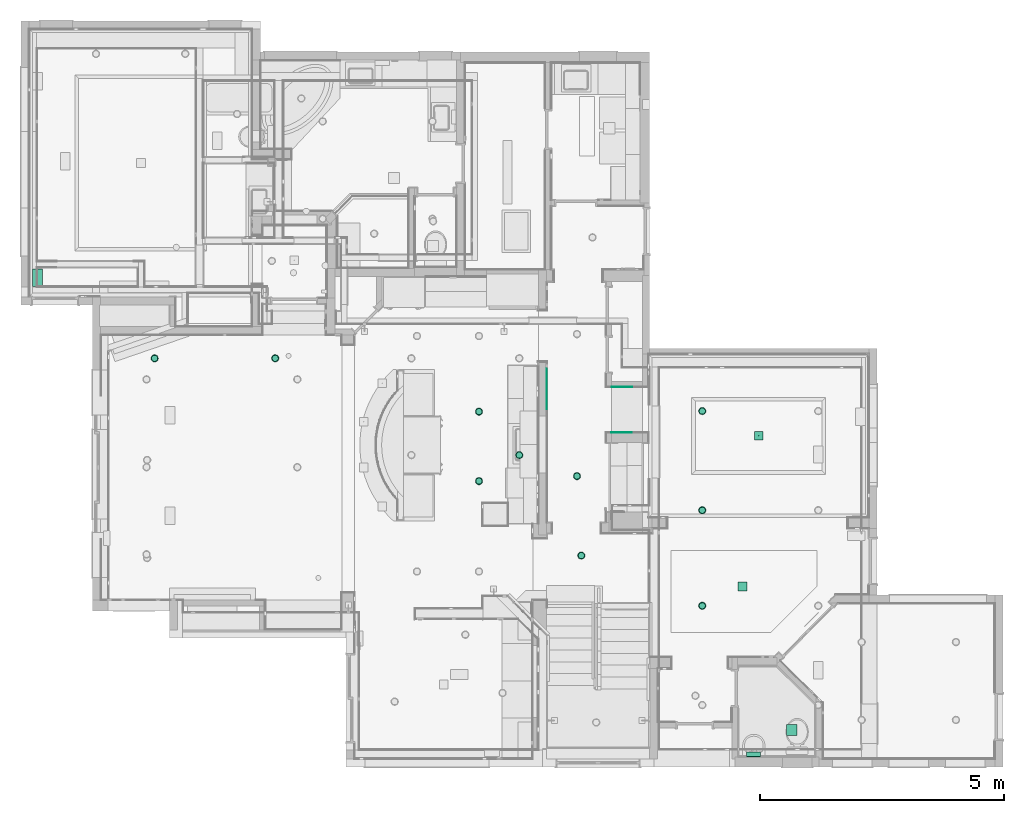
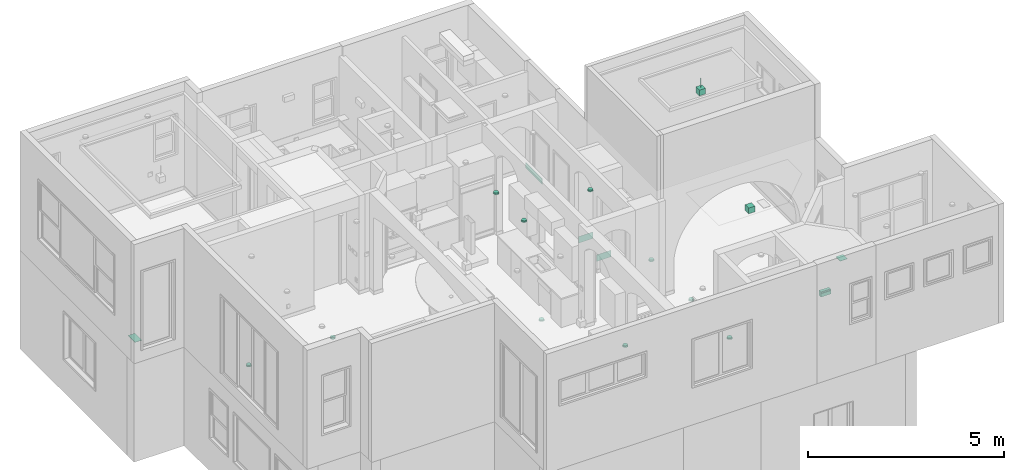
# One storey, part 38 of 60: 18 flow terminals.
"""IFC2X3 building model written with IfcOpenShell, lengths in feet."""

from ifc_helpers import new_model, entity, si_unit, converted_unit, direction, frame, frame_2d, origin, origin_2d_with_axis, place, context, subcontext, project, spatial, rectangle, extrude, faceted_brep, source, transform, mapped, material, material_list, type_object, type_shapes, element, save


model = new_model("IFC2X3")

# Units and contexts
model_context = context("Model", 3, precision=0.0001, world=origin(), true_north=direction((6.123031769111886e-17, 1.0)))
plan_context = context("Plan", 3, precision=0.0001, world=origin(), true_north=direction((6.123031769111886e-17, 1.0)))
body_context = subcontext(model_context, "Body", "Model", "MODEL_VIEW")
ifc_project = project(units=[converted_unit("LENGTHUNIT", "FOOT", entity("IfcLengthMeasure", 0.3048), si_unit("LENGTHUNIT", "METRE"), dimensions=[1, 0, 0, 0, 0, 0, 0]), converted_unit("AREAUNIT", "SQUARE FOOT", entity("IfcAreaMeasure", 0.09290304), si_unit("AREAUNIT", "SQUARE_METRE"), dimensions=[2, 0, 0, 0, 0, 0, 0]), converted_unit("PLANEANGLEUNIT", "DEGREE", entity("IfcPlaneAngleMeasure", 0.017453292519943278), si_unit("PLANEANGLEUNIT", "RADIAN"), dimensions=[0, 0, 0, 0, 0, 0, 0])], contexts=[model_context, plan_context])

# Site, building, storey
site_placement = place(None, origin())
site = spatial("IfcSite", under=ifc_project, at=site_placement, Name="Default", CompositionType="ELEMENT")
building_placement = place(site_placement, origin())
building = spatial("IfcBuilding", under=site, at=building_placement, CompositionType="ELEMENT")
storey_placement = place(building_placement, origin())
storey = spatial("IfcBuildingStorey", under=building, at=storey_placement, Name="First floor", CompositionType="ELEMENT", Elevation=0.0)

# Flow terminals
ifc_material_1 = material(Name="Default New Material")
ifc_material_2 = material(Name="Glass, White, High Luminance")
ifc_material_list = material_list([ifc_material_1, ifc_material_2])
light_fixture_type_1 = type_object("IfcLightFixtureType", Name="C_Spotlight Recessed:Light 2", PredefinedType="NOTDEFINED", material=ifc_material_list)
shared_shape_1 = source(origin(), body_context, "Body", "Brep", [
    faceted_brep([(-0.12499999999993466, 0.21650635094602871, 0.020833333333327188), (-0.17677669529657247, 0.17677669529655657, 0.020833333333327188), (-0.08333333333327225, 0.14433756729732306, 0.020833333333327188), (-0.04313650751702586, 0.1609876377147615, 0.020833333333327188), (-0.0647047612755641, 0.24148145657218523, 0.020833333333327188), (-0.11785113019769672, 0.11785113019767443, 0.020833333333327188), (-0.21650635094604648, 0.12499999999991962, 0.020833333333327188), (-0.1443375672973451, 0.08333333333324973, 0.020833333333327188), (-0.16098763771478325, 0.04313650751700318, 0.020833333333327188), (-0.2414814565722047, 0.06470476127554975, 0.020833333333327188), (-0.166666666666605, 0.0, 0.020833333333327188), (-0.24999999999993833, 0.0, 0.020833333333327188), (-0.16098763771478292, -0.043136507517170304, 0.020833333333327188), (-0.24148145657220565, -0.06470476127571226, 0.020833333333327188), (-0.14433756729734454, -0.08333333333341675, 0.020833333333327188), (-0.2165063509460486, -0.12500000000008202, 0.020833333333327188), (-0.117851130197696, -0.11785113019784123, 0.020833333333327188), (-0.1767766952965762, -0.17677669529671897, 0.020833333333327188), (-0.08333333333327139, -0.14433756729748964, 0.020833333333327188), (-0.12499999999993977, -0.21650635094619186, 0.020833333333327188), (-0.04313650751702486, -0.16098763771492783, 0.020833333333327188), (-0.06470476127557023, -0.24148145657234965, 0.020833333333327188), (0.0, -0.1666666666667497, 0.020833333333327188), (0.0, -0.25000000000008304, 0.020833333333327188), (0.04313650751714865, -0.1609876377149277, 0.020833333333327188), (0.06470476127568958, -0.24148145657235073, 0.020833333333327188), (0.08333333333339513, -0.1443375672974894, 0.020833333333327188), (0.12500000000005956, -0.21650635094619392, 0.020833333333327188), (0.11785113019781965, -0.11785113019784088, 0.020833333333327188), (0.1767766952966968, -0.1767766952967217, 0.020833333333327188), (0.14433756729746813, -0.0833333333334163, 0.020833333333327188), (0.21650635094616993, -0.12500000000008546, 0.020833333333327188), (0.24148145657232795, -0.06470476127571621, 0.020833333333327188), (0.16098763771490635, -0.0431365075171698, 0.020833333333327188), (0.2500000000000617, 0.0, 0.020833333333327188), (0.1666666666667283, 0.0, 0.020833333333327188), (0.24148145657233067, 0.06470476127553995, 0.020833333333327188), (0.16098763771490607, 0.04313650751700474, 0.020833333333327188), (0.21650635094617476, 0.12499999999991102, 0.020833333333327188), (0.14433756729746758, 0.08333333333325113, 0.020833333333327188), (0.17677669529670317, 0.17677669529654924, 0.020833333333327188), (0.1178511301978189, 0.11785113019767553, 0.020833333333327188), (0.1250000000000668, 0.21650635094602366, 0.020833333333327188), (0.08333333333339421, 0.14433756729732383, 0.020833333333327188), (0.06470476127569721, 0.2414814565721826, 0.020833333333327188), (0.04313650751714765, 0.16098763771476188, 0.020833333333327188), (0.0, 0.24999999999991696, 0.020833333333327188), (0.0, 0.1666666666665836, 0.020833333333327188), (-0.12499999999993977, -0.21650635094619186, 0.0), (-0.1767766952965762, -0.17677669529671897, 0.0), (-0.08333333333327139, -0.14433756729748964, 0.0), (-0.04313650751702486, -0.16098763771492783, 0.0), (-0.06470476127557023, -0.24148145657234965, 0.0), (-0.117851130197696, -0.11785113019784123, 0.0), (-0.2165063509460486, -0.12500000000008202, 0.0), (-0.14433756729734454, -0.08333333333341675, 0.0), (-0.16098763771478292, -0.043136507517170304, 0.0), (-0.24148145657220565, -0.06470476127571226, 0.0), (-0.166666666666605, 0.0, 0.0), (-0.24999999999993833, 0.0, 0.0), (-0.16098763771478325, 0.04313650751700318, 0.0), (-0.2414814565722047, 0.06470476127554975, 0.0), (-0.1443375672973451, 0.08333333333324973, 0.0), (-0.21650635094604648, 0.12499999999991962, 0.0), (-0.11785113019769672, 0.11785113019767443, 0.0), (-0.17677669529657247, 0.17677669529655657, 0.0), (-0.08333333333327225, 0.14433756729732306, 0.0), (-0.12499999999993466, 0.21650635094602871, 0.0), (-0.04313650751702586, 0.1609876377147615, 0.0), (-0.0647047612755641, 0.24148145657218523, 0.0), (0.0, 0.1666666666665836, 0.0), (0.0, 0.24999999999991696, 0.0), (0.04313650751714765, 0.16098763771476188, 0.0), (0.06470476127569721, 0.2414814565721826, 0.0), (0.08333333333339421, 0.14433756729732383, 0.0), (0.1250000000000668, 0.21650635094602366, 0.0), (0.1178511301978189, 0.11785113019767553, 0.0), (0.17677669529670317, 0.17677669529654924, 0.0), (0.14433756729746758, 0.08333333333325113, 0.0), (0.21650635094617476, 0.12499999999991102, 0.0), (0.24148145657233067, 0.06470476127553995, 0.0), (0.16098763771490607, 0.04313650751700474, 0.0), (0.2500000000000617, 0.0, 0.0), (0.1666666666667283, 0.0, 0.0), (0.24148145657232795, -0.06470476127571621, 0.0), (0.16098763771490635, -0.0431365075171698, 0.0), (0.21650635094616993, -0.12500000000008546, 0.0), (0.14433756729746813, -0.0833333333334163, 0.0), (0.1767766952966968, -0.1767766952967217, 0.0), (0.11785113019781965, -0.11785113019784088, 0.0), (0.12500000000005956, -0.21650635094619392, 0.0), (0.08333333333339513, -0.1443375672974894, 0.0), (0.06470476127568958, -0.24148145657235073, 0.0), (0.04313650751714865, -0.1609876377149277, 0.0), (0.0, -0.25000000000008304, 0.0), (0.0, -0.1666666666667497, 0.0)], [[[0, 1, 2]], [[0, 2, 3]], [[3, 4, 0]], [[2, 1, 5]], [[6, 5, 1]], [[7, 5, 6]], [[8, 7, 6]], [[8, 6, 9]], [[8, 9, 10]], [[10, 9, 11]], [[12, 10, 11]], [[12, 11, 13]], [[14, 12, 13]], [[14, 13, 15]], [[16, 14, 15]], [[15, 17, 16]], [[17, 18, 16]], [[18, 17, 19]], [[18, 19, 20]], [[21, 20, 19]], [[20, 21, 22]], [[22, 21, 23]], [[23, 24, 22]], [[24, 23, 25]], [[24, 25, 26]], [[27, 26, 25]], [[27, 28, 26]], [[27, 29, 28]], [[30, 28, 29]], [[31, 30, 29]], [[32, 30, 31]], [[33, 30, 32]], [[33, 32, 34]], [[34, 35, 33]], [[36, 35, 34]], [[36, 37, 35]], [[37, 36, 38]], [[39, 37, 38]], [[39, 38, 40]], [[39, 40, 41]], [[40, 42, 41]], [[41, 42, 43]], [[43, 42, 44]], [[44, 45, 43]], [[46, 45, 44]], [[4, 47, 46]], [[45, 46, 47]], [[4, 3, 47]], [[48, 49, 50]], [[48, 50, 51]], [[51, 52, 48]], [[50, 49, 53]], [[54, 53, 49]], [[55, 53, 54]], [[56, 55, 54]], [[56, 54, 57]], [[56, 57, 58]], [[58, 57, 59]], [[60, 58, 59]], [[60, 59, 61]], [[62, 60, 61]], [[62, 61, 63]], [[64, 62, 63]], [[63, 65, 64]], [[65, 66, 64]], [[66, 65, 67]], [[66, 67, 68]], [[69, 68, 67]], [[68, 69, 70]], [[70, 69, 71]], [[71, 72, 70]], [[72, 71, 73]], [[72, 73, 74]], [[75, 74, 73]], [[75, 76, 74]], [[75, 77, 76]], [[78, 76, 77]], [[79, 78, 77]], [[80, 78, 79]], [[81, 78, 80]], [[81, 80, 82]], [[82, 83, 81]], [[84, 83, 82]], [[84, 85, 83]], [[85, 84, 86]], [[87, 85, 86]], [[87, 86, 88]], [[87, 88, 89]], [[88, 90, 89]], [[89, 90, 91]], [[91, 90, 92]], [[92, 93, 91]], [[94, 93, 92]], [[52, 95, 94]], [[93, 94, 95]], [[52, 51, 95]], [[10, 58, 60, 8]], [[8, 60, 62, 7]], [[2, 5, 64, 66]], [[62, 64, 5, 7]], [[3, 2, 66, 68]], [[70, 47, 3, 68]], [[45, 72, 74, 43]], [[43, 74, 76, 41]], [[37, 39, 78, 81]], [[76, 78, 39, 41]], [[35, 37, 81, 83]], [[45, 47, 70, 72]], [[35, 83, 85, 33]], [[33, 85, 87, 30]], [[26, 28, 89, 91]], [[87, 89, 28, 30]], [[24, 26, 91, 93]], [[95, 22, 24, 93]], [[20, 51, 50, 18]], [[18, 50, 53, 16]], [[12, 14, 55, 56]], [[53, 55, 14, 16]], [[10, 12, 56, 58]], [[20, 22, 95, 51]], [[57, 13, 11, 59]], [[54, 15, 13, 57]], [[19, 17, 49, 48]], [[54, 49, 17, 15]], [[21, 19, 48, 52]], [[23, 21, 52, 94]], [[92, 25, 23, 94]], [[90, 27, 25, 92]], [[31, 29, 88, 86]], [[90, 88, 29, 27]], [[32, 31, 86, 84]], [[34, 32, 84, 82]], [[80, 36, 34, 82]], [[79, 38, 36, 80]], [[42, 40, 77, 75]], [[79, 77, 40, 38]], [[44, 42, 75, 73]], [[46, 44, 73, 71]], [[69, 4, 46, 71]], [[67, 0, 4, 69]], [[6, 1, 65, 63]], [[67, 65, 1, 0]], [[9, 6, 63, 61]], [[11, 9, 61, 59]]]),
    faceted_brep([(0.043136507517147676, -0.160987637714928, 0.020833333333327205), (0.08333333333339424, -0.14433756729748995, 0.020833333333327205), (0.11785113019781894, -0.11785113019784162, 0.020833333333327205), (0.14433756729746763, -0.08333333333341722, 0.020833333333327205), (0.16098763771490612, -0.043136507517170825, 0.020833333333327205), (0.16666666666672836, 0.0, 0.020833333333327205), (0.1609876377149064, 0.04313650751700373, 0.020833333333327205), (0.1443375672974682, 0.08333333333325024, 0.020833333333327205), (0.11785113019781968, 0.11785113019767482, 0.020833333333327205), (0.08333333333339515, 0.14433756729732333, 0.020833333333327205), (0.043136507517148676, 0.16098763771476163, 0.020833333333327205), (0.0, 0.16666666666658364, 0.020833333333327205), (-0.04313650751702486, 0.16098763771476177, 0.020833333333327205), (-0.08333333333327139, 0.14433756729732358, 0.020833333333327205), (-0.117851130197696, 0.11785113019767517, 0.020833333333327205), (-0.1443375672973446, 0.08333333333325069, 0.020833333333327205), (-0.16098763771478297, 0.043136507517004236, 0.020833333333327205), (-0.166666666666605, 0.0, 0.020833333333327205), (-0.1609876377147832, -0.04313650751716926, 0.020833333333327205), (-0.14433756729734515, -0.08333333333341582, 0.020833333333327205), (-0.11785113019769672, -0.11785113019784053, 0.020833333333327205), (-0.08333333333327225, -0.14433756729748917, 0.020833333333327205), (-0.04313650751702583, -0.1609876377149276, 0.020833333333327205), (0.0, -0.16666666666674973, 0.020833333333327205), (0.043136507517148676, 0.16098763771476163, 0.0), (0.08333333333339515, 0.14433756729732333, 0.0), (0.11785113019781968, 0.11785113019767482, 0.0), (0.1443375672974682, 0.08333333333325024, 0.0), (0.1609876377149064, 0.04313650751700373, 0.0), (0.16666666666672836, 0.0, 0.0), (0.16098763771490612, -0.043136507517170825, 0.0), (0.14433756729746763, -0.08333333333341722, 0.0), (0.11785113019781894, -0.11785113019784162, 0.0), (0.08333333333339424, -0.14433756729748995, 0.0), (0.043136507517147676, -0.160987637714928, 0.0), (0.0, -0.16666666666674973, 0.0), (-0.04313650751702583, -0.1609876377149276, 0.0), (-0.08333333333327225, -0.14433756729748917, 0.0), (-0.11785113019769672, -0.11785113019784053, 0.0), (-0.14433756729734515, -0.08333333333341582, 0.0), (-0.1609876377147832, -0.04313650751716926, 0.0), (-0.166666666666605, 0.0, 0.0), (-0.16098763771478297, 0.043136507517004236, 0.0), (-0.1443375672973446, 0.08333333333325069, 0.0), (-0.117851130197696, 0.11785113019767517, 0.0), (-0.08333333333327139, 0.14433756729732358, 0.0), (-0.04313650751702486, 0.16098763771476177, 0.0), (0.0, 0.16666666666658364, 0.0)], [[[0, 1, 2, 3, 4, 5, 6, 7, 8, 9, 10, 11, 12, 13, 14, 15, 16, 17, 18, 19, 20, 21, 22, 23]], [[24, 25, 26, 27, 28, 29, 30, 31, 32, 33, 34, 35, 36, 37, 38, 39, 40, 41, 42, 43, 44, 45, 46, 47]], [[40, 18, 17, 41]], [[39, 19, 18, 40]], [[21, 20, 38, 37]], [[39, 38, 20, 19]], [[22, 21, 37, 36]], [[23, 22, 36, 35]], [[34, 0, 23, 35]], [[33, 1, 0, 34]], [[3, 2, 32, 31]], [[33, 32, 2, 1]], [[4, 3, 31, 30]], [[5, 4, 30, 29]], [[28, 6, 5, 29]], [[27, 7, 6, 28]], [[9, 8, 26, 25]], [[27, 26, 8, 7]], [[10, 9, 25, 24]], [[11, 10, 24, 47]], [[46, 12, 11, 47]], [[45, 13, 12, 46]], [[15, 14, 44, 43]], [[45, 44, 14, 13]], [[16, 15, 43, 42]], [[17, 16, 42, 41]]]),
    faceted_brep([(0.0, -0.16666666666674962, -0.10416666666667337), (0.04313650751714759, -0.1609876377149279, -0.10416666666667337), (0.08333333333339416, -0.1443375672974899, -0.10416666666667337), (0.1178511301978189, -0.11785113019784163, -0.10416666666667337), (0.1443375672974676, -0.08333333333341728, -0.10416666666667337), (0.16098763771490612, -0.043136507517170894, -0.10416666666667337), (0.16666666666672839, 0.0, -0.10416666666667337), (0.16098763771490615, 0.04313650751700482, -0.10416666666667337), (0.14433756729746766, 0.08333333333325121, -0.10416666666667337), (0.11785113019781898, 0.11785113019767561, -0.10416666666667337), (0.0833333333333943, 0.14433756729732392, -0.10416666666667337), (0.04313650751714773, 0.16098763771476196, -0.10416666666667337), (0.0, 0.1666666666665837, -0.10416666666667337), (-0.043136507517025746, 0.16098763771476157, -0.10416666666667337), (-0.08333333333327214, 0.14433756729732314, -0.10416666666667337), (-0.11785113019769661, 0.11785113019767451, -0.10416666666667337), (-0.14433756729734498, 0.08333333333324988, -0.10416666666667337), (-0.16098763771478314, 0.04313650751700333, -0.10416666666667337), (-0.16666666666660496, 0.0, -0.10416666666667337), (-0.16098763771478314, -0.04313650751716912, -0.10416666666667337), (-0.1443375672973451, -0.08333333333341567, -0.10416666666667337), (-0.11785113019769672, -0.11785113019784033, -0.10416666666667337), (-0.08333333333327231, -0.14433756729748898, -0.10416666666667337), (-0.04313650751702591, -0.16098763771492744, -0.10416666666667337), (0.0, 0.20833333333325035, -0.12500000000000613), (0.053920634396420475, 0.20123454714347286, -0.12500000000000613), (0.10416666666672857, 0.18042195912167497, -0.12500000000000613), (0.14731391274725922, 0.14731391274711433, -0.12500000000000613), (0.18042195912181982, 0.1041666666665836, -0.12500000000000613), (0.2012345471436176, 0.053920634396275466, -0.12500000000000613), (0.20833333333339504, 0.0, -0.12500000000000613), (0.20123454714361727, -0.0539206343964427, -0.12500000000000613), (0.18042195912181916, -0.10416666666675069, -0.12500000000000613), (0.1473139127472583, -0.14731391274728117, -0.12500000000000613), (0.10416666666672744, -0.18042195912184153, -0.12500000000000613), (0.053920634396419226, -0.2012345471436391, -0.12500000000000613), (0.0, -0.20833333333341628, -0.12500000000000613), (-0.05392063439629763, -0.20123454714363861, -0.12500000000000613), (-0.10416666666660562, -0.18042195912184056, -0.12500000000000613), (-0.14731391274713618, -0.1473139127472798, -0.12500000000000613), (-0.18042195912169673, -0.10416666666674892, -0.12500000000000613), (-0.20123454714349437, -0.05392063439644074, -0.12500000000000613), (-0.2083333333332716, 0.0, -0.12500000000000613), (-0.20123454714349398, 0.053920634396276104, -0.12500000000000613), (-0.18042195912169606, 0.10416666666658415, -0.12500000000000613), (-0.1473139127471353, 0.14731391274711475, -0.12500000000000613), (-0.10416666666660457, 0.1804219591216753, -0.12500000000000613), (-0.05392063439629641, 0.20123454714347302, -0.12500000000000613), (-0.2012345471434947, -0.053920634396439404, -0.10416666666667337), (-0.20123454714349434, -0.053920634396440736, 0.0), (-0.20833333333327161, 0.0, 0.0), (-0.2083333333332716, 0.0, -0.10416666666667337), (-0.1804219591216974, -0.10416666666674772, -0.10416666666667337), (-0.1804219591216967, -0.10416666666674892, 0.0), (-0.10416666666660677, -0.18042195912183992, -0.10416666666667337), (-0.10416666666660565, -0.18042195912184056, 0.0), (-0.1473139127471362, -0.1473139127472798, 0.0), (-0.14731391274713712, -0.14731391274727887, -0.10416666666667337), (-0.053920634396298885, -0.20123454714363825, -0.10416666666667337), (-0.05392063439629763, -0.20123454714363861, 0.0), (0.0, -0.20833333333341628, -0.10416666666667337), (0.0, -0.20833333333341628, 0.0), (0.05392063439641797, -0.20123454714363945, -0.10416666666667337), (0.053920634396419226, -0.2012345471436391, 0.0), (0.10416666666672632, -0.1804219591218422, -0.10416666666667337), (0.10416666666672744, -0.18042195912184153, 0.0), (0.1804219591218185, -0.1041666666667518, -0.10416666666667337), (0.18042195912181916, -0.10416666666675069, 0.0), (0.1473139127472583, -0.14731391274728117, 0.0), (0.1473139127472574, -0.1473139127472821, -0.10416666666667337), (0.20123454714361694, -0.05392063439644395, -0.10416666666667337), (0.20123454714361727, -0.05392063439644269, 0.0), (0.20833333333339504, 0.0, -0.10416666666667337), (0.20833333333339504, 0.0, 0.0), (0.2012345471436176, 0.053920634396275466, -0.10416666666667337), (0.2012345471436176, 0.05392063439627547, 0.0), (0.18042195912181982, 0.1041666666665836, -0.10416666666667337), (0.18042195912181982, 0.1041666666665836, 0.0), (0.10416666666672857, 0.18042195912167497, -0.10416666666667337), (0.10416666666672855, 0.18042195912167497, 0.0), (0.14731391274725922, 0.14731391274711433, 0.0), (0.14731391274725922, 0.14731391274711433, -0.10416666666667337), (0.053920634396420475, 0.20123454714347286, -0.10416666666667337), (0.053920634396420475, 0.20123454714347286, 0.0), (0.0, 0.20833333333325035, -0.10416666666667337), (0.0, 0.20833333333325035, 0.0), (-0.05392063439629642, 0.20123454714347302, -0.10416666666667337), (-0.05392063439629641, 0.20123454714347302, 0.0), (-0.10416666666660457, 0.1804219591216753, -0.10416666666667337), (-0.10416666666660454, 0.1804219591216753, 0.0), (-0.18042195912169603, 0.10416666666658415, -0.10416666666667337), (-0.18042195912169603, 0.10416666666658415, 0.0), (-0.14731391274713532, 0.14731391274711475, 0.0), (-0.14731391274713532, 0.14731391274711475, -0.10416666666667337), (-0.20123454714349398, 0.053920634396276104, -0.10416666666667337), (-0.20123454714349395, 0.05392063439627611, 0.0), (-0.08333333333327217, 0.14433756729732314, 0.0), (-0.043136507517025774, 0.16098763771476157, 0.0), (-0.11785113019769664, 0.11785113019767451, 0.0), (-0.144337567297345, 0.08333333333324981, 0.0), (-0.16098763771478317, 0.04313650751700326, 0.0), (-0.16666666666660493, 0.0, 0.0), (-0.16098763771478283, -0.04313650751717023, 0.0), (-0.14433756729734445, -0.08333333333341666, 0.0), (-0.11785113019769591, -0.11785113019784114, 0.0), (-0.08333333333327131, -0.14433756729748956, 0.0), (-0.043136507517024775, -0.16098763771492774, 0.0), (0.0, -0.16666666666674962, 0.0), (0.04313650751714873, -0.1609876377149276, 0.0), (0.08333333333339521, -0.1443375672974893, 0.0), (0.11785113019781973, -0.1178511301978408, 0.0), (0.14433756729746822, -0.08333333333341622, 0.0), (0.16098763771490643, -0.04313650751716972, 0.0), (0.16666666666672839, 0.0, 0.0), (0.16098763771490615, 0.04313650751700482, 0.0), (0.14433756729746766, 0.08333333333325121, 0.0), (0.11785113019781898, 0.11785113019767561, 0.0), (0.0833333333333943, 0.14433756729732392, 0.0), (0.04313650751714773, 0.16098763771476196, 0.0), (0.0, 0.1666666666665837, 0.0)], [[[0, 1, 2, 3, 4, 5, 6, 7, 8, 9, 10, 11, 12, 13, 14, 15, 16, 17, 18, 19, 20, 21, 22, 23]], [[24, 25, 26, 27, 28, 29, 30, 31, 32, 33, 34, 35, 36, 37, 38, 39, 40, 41, 42, 43, 44, 45, 46, 47]], [[41, 48, 49, 50, 51, 42]], [[40, 52, 53, 49, 48, 41]], [[54, 55, 56, 57, 39, 38]], [[40, 39, 57, 56, 53, 52]], [[58, 59, 55, 54, 38, 37]], [[60, 61, 59, 58, 37, 36]], [[35, 62, 63, 61, 60, 36]], [[34, 64, 65, 63, 62, 35]], [[66, 67, 68, 69, 33, 32]], [[34, 33, 69, 68, 65, 64]], [[70, 71, 67, 66, 32, 31]], [[72, 73, 71, 70, 31, 30]], [[29, 74, 75, 73, 72, 30]], [[28, 76, 77, 75, 74, 29]], [[78, 79, 80, 81, 27, 26]], [[28, 27, 81, 80, 77, 76]], [[82, 83, 79, 78, 26, 25]], [[84, 85, 83, 82, 25, 24]], [[47, 86, 87, 85, 84, 24]], [[46, 88, 89, 87, 86, 47]], [[90, 91, 92, 93, 45, 44]], [[46, 45, 93, 92, 89, 88]], [[94, 95, 91, 90, 44, 43]], [[51, 50, 95, 94, 43, 42]], [[89, 92, 96]], [[89, 96, 97]], [[97, 87, 89]], [[96, 92, 98]], [[91, 98, 92]], [[99, 98, 91]], [[100, 99, 91]], [[100, 91, 95]], [[100, 95, 101]], [[101, 95, 50]], [[102, 101, 50]], [[102, 50, 49]], [[103, 102, 49]], [[103, 49, 53]], [[104, 103, 53]], [[53, 56, 104]], [[56, 105, 104]], [[105, 56, 55]], [[105, 55, 106]], [[59, 106, 55]], [[106, 59, 107]], [[107, 59, 61]], [[61, 108, 107]], [[108, 61, 63]], [[108, 63, 109]], [[65, 109, 63]], [[65, 110, 109]], [[65, 68, 110]], [[111, 110, 68]], [[67, 111, 68]], [[71, 111, 67]], [[112, 111, 71]], [[112, 71, 73]], [[73, 113, 112]], [[75, 113, 73]], [[75, 114, 113]], [[114, 75, 77]], [[115, 114, 77]], [[115, 77, 80]], [[115, 80, 116]], [[80, 79, 116]], [[116, 79, 117]], [[117, 79, 83]], [[83, 118, 117]], [[85, 118, 83]], [[87, 119, 85]], [[85, 119, 118]], [[87, 97, 119]], [[113, 6, 5, 112]], [[112, 5, 4, 111]], [[109, 110, 3, 2]], [[4, 3, 110, 111]], [[108, 109, 2, 1]], [[0, 107, 108, 1]], [[104, 105, 22, 21]], [[23, 22, 105, 106]], [[102, 103, 20, 19]], [[104, 21, 20, 103]], [[102, 19, 18, 101]], [[0, 23, 106, 107]], [[101, 18, 17, 100]], [[100, 17, 16, 99]], [[96, 98, 15, 14]], [[16, 15, 98, 99]], [[97, 96, 14, 13]], [[12, 119, 97, 13]], [[118, 11, 10, 117]], [[117, 10, 9, 116]], [[114, 115, 8, 7]], [[9, 8, 115, 116]], [[113, 114, 7, 6]], [[118, 119, 12, 11]]]),
])
type_shapes(light_fixture_type_1, [shared_shape_1])
for number, where, z_axis, x_axis, name in (
    (1, (15.49998404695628, 19.54138293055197, 21.166666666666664), (0.0, 0.0, -1.0), (-1.0, 2.862709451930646e-05, 0.0), "C_Spotlight Recessed:Light 2"),
    (2, (8.916329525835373, 19.208333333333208, 20.541666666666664), (0.0, 0.0, -1.0), (0.0, -1.0, 0.0), "C_Spotlight Recessed:Light 2"),
    (3, (8.916329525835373, 23.87499999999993, 20.541666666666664), (0.0, 0.0, -1.0), (0.0, -1.0, 0.0), "C_Spotlight Recessed:Light 2"),
    (4, (23.9166666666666, 10.833420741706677, 8.416666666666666), (0.0, 0.0, -1.0), (0.0, -1.0, 0.0), "C_Spotlight Recessed:Light 2"),
    (5, (23.91666666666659, 17.250087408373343, 8.416666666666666), (0.0, 0.0, -1.0), (0.0, -1.0, 0.0), "C_Spotlight Recessed:Light 2"),
    (6, (23.91666666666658, 23.91675407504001, 8.416666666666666), (0.0, 0.0, -1.0), (0.0, -1.0, 0.0), "C_Spotlight Recessed:Light 2"),
    (7, (15.791666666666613, 14.208333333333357, 8.416666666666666), (0.0, 0.0, -1.0), (0.0, -1.0, 0.0), "C_Spotlight Recessed:Light 2"),
    (8, (11.624999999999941, 20.958333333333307, 8.416666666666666), (0.0, 0.0, -1.0), (0.0, -1.0, 0.0), "C_Spotlight Recessed:Light 2"),
    (9, (-4.7708333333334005, 27.458333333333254, 8.416666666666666), (0.0, 0.0, -1.0), (0.0, -1.0, 0.0), "C_Spotlight Recessed:Light 2"),
    (10, (-12.87500000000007, 27.45833333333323, 8.416666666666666), (0.0, 0.0, -1.0), (0.0, -1.0, 0.0), "C_Spotlight Recessed:Light 2"),
):
    element("IfcFlowTerminal", number, at=place(storey_placement, frame(where, z_axis=z_axis, x_axis=x_axis)), inside=storey, type_object=light_fixture_type_1, material=ifc_material_list, Name=name, ObjectType="C_Spotlight Recessed:Light 2", context=body_context, shape_type="MappedRepresentation", body=[
        mapped(shared_shape_1, transform((0.0, 0.0, 0.0), scale=1.0)),
    ])
light_fixture_type_2 = type_object("IfcLightFixtureType", Name="C_Wall Lamp Horizontal:C_Wall Lamp Horizontal", PredefinedType="NOTDEFINED", material=ifc_material_1)
shared_shape_2 = source(origin(), body_context, "Body", "SweptSolid", [
    extrude(rectangle(XDim=0.9583333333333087, YDim=0.3125000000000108, at=frame_2d((0.0, 2.7755575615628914e-17), x_axis=(1.0, 0.0))), frame((-0.1192771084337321, 0.5312499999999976, -11.745820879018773)), (0.0, 0.0, 1.0), 0.520833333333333),
    extrude(rectangle(XDim=0.9583333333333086, YDim=0.041666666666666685, at=frame_2d((0.0, -2.7755575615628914e-17), x_axis=(1.0, 0.0))), frame((-0.11927710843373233, 0.354166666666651, -11.620579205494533)), (0.0, 0.0, 1.0), 0.27083333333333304),
])
type_shapes(light_fixture_type_2, [shared_shape_2])
flow_terminal_1_placement = place(storey_placement, frame((27.473443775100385, 0.333333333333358, 29.40207087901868)))
element("IfcFlowTerminal", 11, at=flow_terminal_1_placement, inside=storey, type_object=light_fixture_type_2, material=ifc_material_1, Name="C_Wall Lamp Horizontal:C_Wall Lamp Horizontal", ObjectType="C_Wall Lamp Horizontal:C_Wall Lamp Horizontal", context=body_context, shape_type="MappedRepresentation", body=[
    mapped(shared_shape_2, transform((0.0, 0.0, 0.0), scale=1.0)),
])
air_terminal_type_1 = type_object("IfcAirTerminalType", Name="C_Grill_Surface Based:Standard 2", PredefinedType="NOTDEFINED", material=ifc_material_1)
shared_shape_3 = source(origin(), body_context, "Body", "SweptSolid", [
    extrude(rectangle(XDim=0.7499999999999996, YDim=0.7083333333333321, at=frame_2d((0.0, 1.7763568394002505e-15), x_axis=(1.0, 0.0))), frame((29.914062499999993, 2.500000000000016, -0.020833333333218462), z_axis=(0.0, 0.0, 1.0), x_axis=(0.0, 1.0, 0.0)), (0.0, 0.0, 1.0), 0.020833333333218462),
])
type_shapes(air_terminal_type_1, [shared_shape_3])
flow_terminal_2_placement = place(storey_placement, frame((0.0, 0.0, 19.541666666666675)))
element("IfcFlowTerminal", 12, at=flow_terminal_2_placement, inside=storey, type_object=air_terminal_type_1, material=ifc_material_1, Name="C_Grill_Surface Based:Standard 2", ObjectType="C_Grill_Surface Based:Standard 2", context=body_context, shape_type="MappedRepresentation", body=[
    mapped(shared_shape_3, transform((0.0, 0.0, 0.0), scale=1.0)),
])
light_fixture_type_3 = type_object("IfcLightFixtureType", Name="C_Ceiling Lamp:C_Ceiling Lamp", PredefinedType="NOTDEFINED", material=ifc_material_1)
shared_shape_4 = source(origin(), body_context, "Body", "SweptSolid", [
    extrude(rectangle(XDim=0.5833333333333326, YDim=0.5833333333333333, at=origin_2d_with_axis()), frame((0.0, 0.0, -20.229166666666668), z_axis=(0.0, 0.0, 1.0), x_axis=(0.0, 1.0, 0.0)), (0.0, 0.0, 1.0), 0.5833333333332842),
    extrude(rectangle(XDim=0.02140587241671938, YDim=0.02083333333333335, at=origin_2d_with_axis()), frame((0.0, 0.0, -19.64583333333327), z_axis=(0.0, 0.0, 1.0), x_axis=(0.0, 1.0, 0.0)), (0.0, 0.0, 1.0), 0.9791666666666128),
])
type_shapes(light_fixture_type_3, [shared_shape_4])
for number, where, name in (
    (13, (27.70840620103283, 22.25, 45.333333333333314), "C_Ceiling Lamp:C_Ceiling Lamp"),
    (14, (26.624864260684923, 12.12500033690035, 39.83333333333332), "C_Ceiling Lamp:C_Ceiling Lamp"),
):
    element("IfcFlowTerminal", number, at=place(storey_placement, frame(where)), inside=storey, type_object=light_fixture_type_3, material=ifc_material_1, Name=name, ObjectType="C_Ceiling Lamp:C_Ceiling Lamp", context=body_context, shape_type="MappedRepresentation", body=[
        mapped(shared_shape_4, transform((0.0, 0.0, 0.0), scale=1.0)),
    ])
air_terminal_type_2 = type_object("IfcAirTerminalType", Name="C_Grill_Surface Based:Standard 2", PredefinedType="NOTDEFINED", material=ifc_material_1)
shared_shape_5 = source(origin(), body_context, "Body", "SweptSolid", [
    extrude(rectangle(XDim=0.6666666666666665, YDim=1.1666666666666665, at=frame_2d((-2.7755575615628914e-17, 0.0), x_axis=(1.0, 0.0))), frame((0.0, 0.0, 0.0), z_axis=(0.0, 0.0, 1.0), x_axis=(-1.0, 0.0, 0.0)), (0.0, 0.0, 1.0), 0.020833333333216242),
])
type_shapes(air_terminal_type_2, [shared_shape_5])
flow_terminal_3_placement = place(storey_placement, frame((-20.729166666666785, 32.87500000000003, 10.666666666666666)))
element("IfcFlowTerminal", 15, at=flow_terminal_3_placement, inside=storey, type_object=air_terminal_type_2, material=ifc_material_1, Name="C_Grill_Surface Based:Standard 2", ObjectType="C_Grill_Surface Based:Standard 2", context=body_context, shape_type="MappedRepresentation", body=[
    mapped(shared_shape_5, transform((0.0, 0.0, 0.0), scale=1.0)),
])
air_terminal_type_3 = type_object("IfcAirTerminalType", Name="C_Grill_Surface Based:Standard 2", PredefinedType="NOTDEFINED", material=ifc_material_1)
shared_shape_6 = source(origin(), body_context, "Body", "SweptSolid", [
    extrude(rectangle(XDim=2.75, YDim=0.5833333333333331, at=origin_2d_with_axis()), frame((0.0, 0.0, 0.0), z_axis=(0.0, 0.0, 1.0), x_axis=(-1.0, 0.0, 0.0)), (0.0, 0.0, 1.0), 0.020833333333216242),
])
type_shapes(air_terminal_type_3, [shared_shape_6])
flow_terminal_4_placement = place(storey_placement, frame((13.458333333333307, 25.420553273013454, 20.0), z_axis=(1.0, 0.0, 0.0), x_axis=(0.0, 1.0, 0.0)))
element("IfcFlowTerminal", 16, at=flow_terminal_4_placement, inside=storey, type_object=air_terminal_type_3, material=ifc_material_1, Name="C_Grill_Surface Based:Standard 2", ObjectType="C_Grill_Surface Based:Standard 2", context=body_context, shape_type="MappedRepresentation", body=[
    mapped(shared_shape_6, transform((0.0, 0.0, 0.0), scale=1.0)),
])
air_terminal_type_4 = type_object("IfcAirTerminalType", Name="C_Grill_Surface Based:Standard 2", PredefinedType="NOTDEFINED", material=ifc_material_1)
shared_shape_7 = source(origin(), body_context, "Body", "SweptSolid", [
    extrude(rectangle(XDim=1.375, YDim=0.6666666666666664, at=origin_2d_with_axis()), frame((0.0, 0.0, 0.0), z_axis=(0.0, 0.0, 1.0), x_axis=(-1.0, 0.0, 0.0)), (0.0, 0.0, 1.0), 0.020833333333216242),
])
type_shapes(air_terminal_type_4, [shared_shape_7])
for number, where, z_axis, x_axis, name in (
    (17, (18.520833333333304, 25.5413215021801, 11.625000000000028), (0.0, -1.0, 0.0), (1.0, 0.0, 0.0), "C_Grill_Surface Based:Standard 2"),
    (18, (18.479166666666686, 22.457988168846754, 11.625000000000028), (0.0, 1.0, 0.0), (-1.0, 0.0, 0.0), "C_Grill_Surface Based:Standard 2"),
):
    element("IfcFlowTerminal", number, at=place(storey_placement, frame(where, z_axis=z_axis, x_axis=x_axis)), inside=storey, type_object=air_terminal_type_4, material=ifc_material_1, Name=name, ObjectType="C_Grill_Surface Based:Standard 2", context=body_context, shape_type="MappedRepresentation", body=[
        mapped(shared_shape_7, transform((0.0, 0.0, 0.0), scale=1.0)),
    ])

save(model, "model.ifc")
